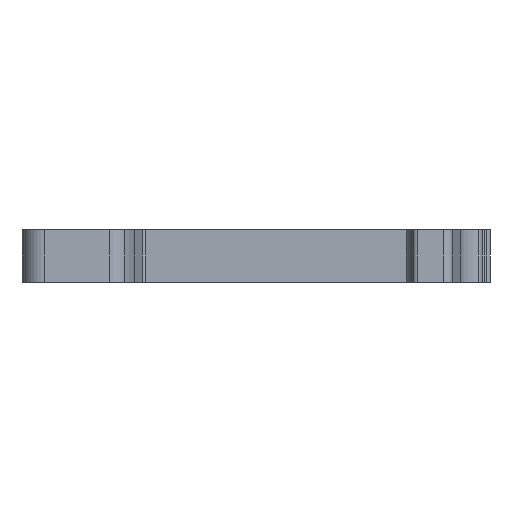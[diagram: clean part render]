
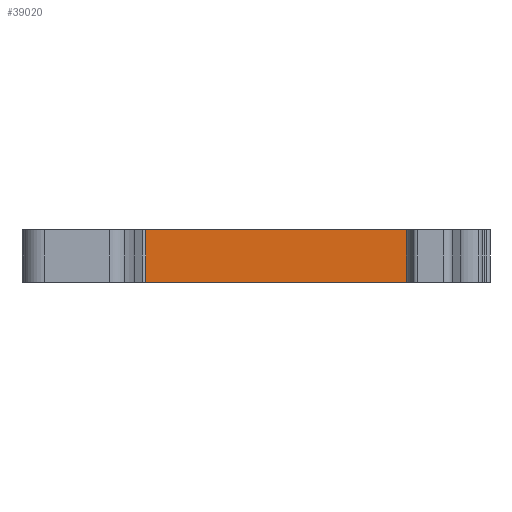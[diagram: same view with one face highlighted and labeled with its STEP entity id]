
A CAD part, front view. The second image highlights one B-rep face of the part: STEP entity #39020.
In plain terms, the highlighted planar face has unit normal (0, -1, 0).
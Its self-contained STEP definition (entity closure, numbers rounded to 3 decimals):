
#4980=CARTESIAN_POINT('',(17.5,0.,-0.));
#4990=VERTEX_POINT('',#4980);
#5020=CARTESIAN_POINT('',(17.5,0.,0.));
#5030=DIRECTION('',(-1.,0.,0.));
#5040=VECTOR('',#5030,1.);
#5050=LINE('',#5020,#5040);
#5060=CARTESIAN_POINT('',(-14.8,0.,
0.));
#5070=VERTEX_POINT('',#5060);
#5080=EDGE_CURVE('',#4990,#5070,#5050,.T.);
#30450=CARTESIAN_POINT('',(-14.8,0.,-6.2))
;
#30460=VERTEX_POINT('',#30450);
#30490=CARTESIAN_POINT('',(17.5,0.,-6.2));
#30500=DIRECTION('',(-1.,0.,0.));
#30510=VECTOR('',#30500,1.);
#30520=LINE('',#30490,#30510);
#30530=CARTESIAN_POINT('',(17.5,0.,-6.2));
#30540=VERTEX_POINT('',#30530);
#30550=EDGE_CURVE('',#30540,#30460,#30520,.T.);
#38750=CARTESIAN_POINT('',(-14.8,0.,-6.2))
;
#38760=DIRECTION('',(0.,0.,1.));
#38770=VECTOR('',#38760,1.);
#38780=LINE('',#38750,#38770);
#38790=EDGE_CURVE('',#30460,#5070,#38780,.T.);
#38860=CARTESIAN_POINT('',(17.5,0.,-0.));
#38870=DIRECTION('',(-0.,1.,-0.));
#38880=DIRECTION('',(1.,-0.,0.));
#38890=AXIS2_PLACEMENT_3D('',#38860,#38870,#38880);
#38900=PLANE('',#38890);
#38910=ORIENTED_EDGE('',*,*,#38790,.F.);
#38920=ORIENTED_EDGE('',*,*,#5080,.T.);
#38930=CARTESIAN_POINT('',(17.5,0.,-6.2));
#38940=DIRECTION('',(0.,0.,1.));
#38950=VECTOR('',#38940,1.);
#38960=LINE('',#38930,#38950);
#38970=EDGE_CURVE('',#30540,#4990,#38960,.T.);
#38980=ORIENTED_EDGE('',*,*,#38970,.T.);
#38990=ORIENTED_EDGE('',*,*,#30550,.F.);
#39000=EDGE_LOOP('',(#38990,#38980,#38920,#38910));
#39010=FACE_OUTER_BOUND('',#39000,.T.);
#39020=ADVANCED_FACE('',(#39010),#38900,.F.);
